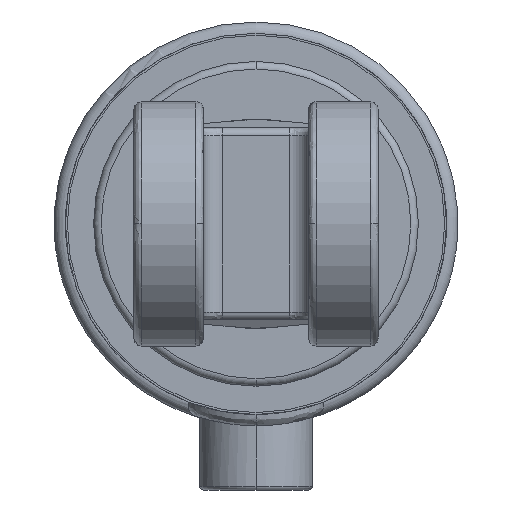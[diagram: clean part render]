
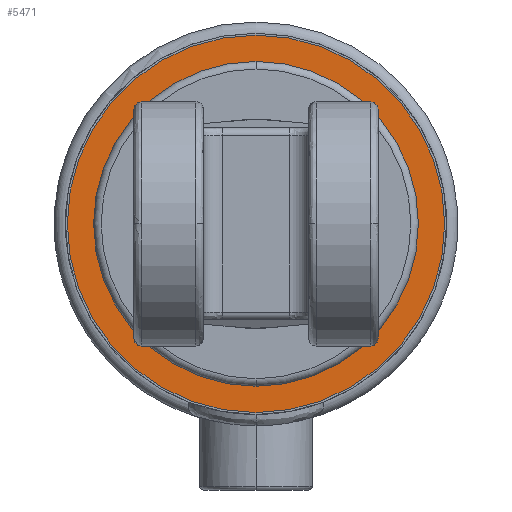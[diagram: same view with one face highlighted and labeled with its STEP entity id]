
A CAD part, left-side view. The second image highlights one B-rep face of the part: STEP entity #5471.
In plain terms, the highlighted planar face has unit normal (-1, 0, 0).
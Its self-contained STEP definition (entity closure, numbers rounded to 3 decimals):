
#205 = CARTESIAN_POINT ( 'NONE',  ( -468.005, 0., -43.2 ) ) ;
#327 = AXIS2_PLACEMENT_3D ( 'NONE', #3464, #9601, #4340 ) ;
#340 = CARTESIAN_POINT ( 'NONE',  ( -468.005, 0., 50.2 ) ) ;
#388 = EDGE_CURVE ( 'NONE', #11186, #2535, #11036, .T. ) ;
#823 = EDGE_LOOP ( 'NONE', ( #6144, #10780 ) ) ;
#1291 = CARTESIAN_POINT ( 'NONE',  ( -468.005, 0., 0. ) ) ;
#1938 = CIRCLE ( 'NONE', #327, 43.2 ) ;
#2096 = DIRECTION ( 'NONE',  ( -1., 0., 0. ) ) ;
#2183 = DIRECTION ( 'NONE',  ( 0., 0., 1. ) ) ;
#2535 = VERTEX_POINT ( 'NONE', #8219 ) ;
#2612 = FACE_OUTER_BOUND ( 'NONE', #9254, .T. ) ;
#2761 = DIRECTION ( 'NONE',  ( 0., 0., 1. ) ) ;
#3021 = CIRCLE ( 'NONE', #6003, 50.2 ) ;
#3464 = CARTESIAN_POINT ( 'NONE',  ( -468.005, 0., 0. ) ) ;
#3653 = VERTEX_POINT ( 'NONE', #8951 ) ;
#4153 = EDGE_CURVE ( 'NONE', #2535, #11186, #1938, .T. ) ;
#4340 = DIRECTION ( 'NONE',  ( 0., 0., 1. ) ) ;
#4412 = PLANE ( 'NONE',  #4978 ) ;
#4662 = CARTESIAN_POINT ( 'NONE',  ( -468.005, 0., 0. ) ) ;
#4713 = ORIENTED_EDGE ( 'NONE', *, *, #7148, .T. ) ;
#4872 = EDGE_CURVE ( 'NONE', #3653, #4919, #3021, .T. ) ;
#4919 = VERTEX_POINT ( 'NONE', #340 ) ;
#4978 = AXIS2_PLACEMENT_3D ( 'NONE', #7080, #8014, #2761 ) ;
#5471 = ADVANCED_FACE ( 'NONE', ( #2612, #9613 ), #4412, .T. ) ;
#5534 = DIRECTION ( 'NONE',  ( 0., 0., 1. ) ) ;
#6003 = AXIS2_PLACEMENT_3D ( 'NONE', #7329, #2096, #8222 ) ;
#6144 = ORIENTED_EDGE ( 'NONE', *, *, #4153, .F. ) ;
#7080 = CARTESIAN_POINT ( 'NONE',  ( -468.005, 0., -50.2 ) ) ;
#7148 = EDGE_CURVE ( 'NONE', #4919, #3653, #8209, .T. ) ;
#7329 = CARTESIAN_POINT ( 'NONE',  ( -468.005, 0., 0. ) ) ;
#7425 = DIRECTION ( 'NONE',  ( -1., 0., 0. ) ) ;
#8014 = DIRECTION ( 'NONE',  ( -1., 0., 0. ) ) ;
#8209 = CIRCLE ( 'NONE', #10591, 50.2 ) ;
#8219 = CARTESIAN_POINT ( 'NONE',  ( -468.005, 0., 43.2 ) ) ;
#8222 = DIRECTION ( 'NONE',  ( 0., 0., 1. ) ) ;
#8855 = AXIS2_PLACEMENT_3D ( 'NONE', #1291, #7425, #2183 ) ;
#8951 = CARTESIAN_POINT ( 'NONE',  ( -468.005, 0., -50.2 ) ) ;
#9254 = EDGE_LOOP ( 'NONE', ( #4713, #10990 ) ) ;
#9601 = DIRECTION ( 'NONE',  ( -1., 0., 0. ) ) ;
#9613 = FACE_BOUND ( 'NONE', #823, .T. ) ;
#10591 = AXIS2_PLACEMENT_3D ( 'NONE', #4662, #10810, #5534 ) ;
#10780 = ORIENTED_EDGE ( 'NONE', *, *, #388, .F. ) ;
#10810 = DIRECTION ( 'NONE',  ( -1., 0., 0. ) ) ;
#10990 = ORIENTED_EDGE ( 'NONE', *, *, #4872, .T. ) ;
#11036 = CIRCLE ( 'NONE', #8855, 43.2 ) ;
#11186 = VERTEX_POINT ( 'NONE', #205 ) ;
